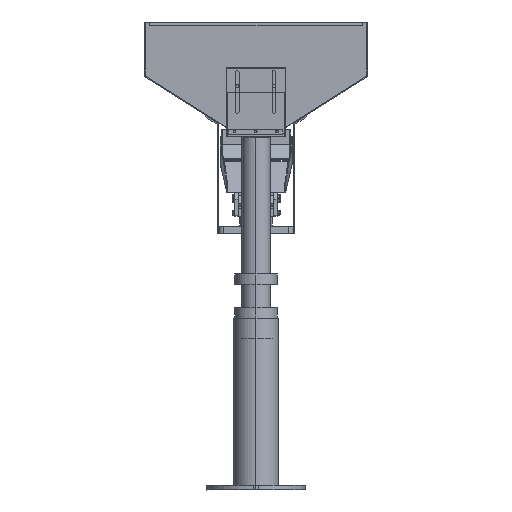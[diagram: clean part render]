
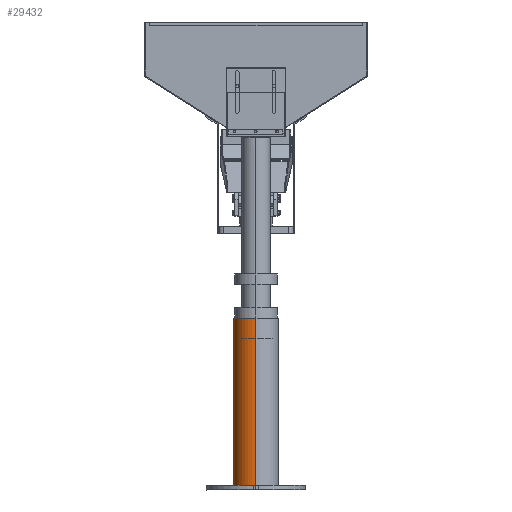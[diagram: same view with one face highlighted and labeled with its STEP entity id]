
A CAD part, left-side view. The second image highlights one B-rep face of the part: STEP entity #29432.
In plain terms, the highlighted cylindrical face has radius 44.75 mm (diameter 89.5 mm), a partial arc.
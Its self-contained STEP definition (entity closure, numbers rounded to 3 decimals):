
#1648 = CIRCLE ( 'NONE', #33261, 44.75 ) ;
#2230 = ORIENTED_EDGE ( 'NONE', *, *, #23548, .T. ) ;
#3118 = AXIS2_PLACEMENT_3D ( 'NONE', #18456, #43193, #40151 ) ;
#3261 = CARTESIAN_POINT ( 'NONE',  ( -1256.942, -265.8, 1498.651 ) ) ;
#3896 = VECTOR ( 'NONE', #23567, 1000. ) ;
#4722 = FACE_OUTER_BOUND ( 'NONE', #28064, .T. ) ;
#4729 = LINE ( 'NONE', #37504, #23122 ) ;
#5061 = ORIENTED_EDGE ( 'NONE', *, *, #6390, .T. ) ;
#5077 = EDGE_CURVE ( 'NONE', #26413, #5469, #17442, .T. ) ;
#5427 = CARTESIAN_POINT ( 'NONE',  ( -1301.692, -265.8, 1468.651 ) ) ;
#5469 = VERTEX_POINT ( 'NONE', #3261 ) ;
#6390 = EDGE_CURVE ( 'NONE', #5469, #31500, #41476, .T. ) ;
#8337 = CARTESIAN_POINT ( 'NONE',  ( -1346.442, -265.806, 1161.874 ) ) ;
#9174 = CARTESIAN_POINT ( 'NONE',  ( -1256.942, -265.8, 1468.651 ) ) ;
#9761 = ORIENTED_EDGE ( 'NONE', *, *, #5077, .T. ) ;
#15555 = EDGE_CURVE ( 'NONE', #26413, #45107, #4729, .T. ) ;
#15578 = DIRECTION ( 'NONE',  ( -1., 0., 0. ) ) ;
#17442 = CIRCLE ( 'NONE', #3118, 44.75 ) ;
#18456 = CARTESIAN_POINT ( 'NONE',  ( -1301.692, -265.8, 1498.651 ) ) ;
#19073 = CARTESIAN_POINT ( 'NONE',  ( -1301.692, -265.806, 1161.874 ) ) ;
#22855 = DIRECTION ( 'NONE',  ( -1., 0., 0. ) ) ;
#23122 = VECTOR ( 'NONE', #44547, 1000. ) ;
#23548 = EDGE_CURVE ( 'NONE', #31500, #45107, #1648, .T. ) ;
#23567 = DIRECTION ( 'NONE',  ( 0., 0., -1. ) ) ;
#26413 = VERTEX_POINT ( 'NONE', #29642 ) ;
#28064 = EDGE_LOOP ( 'NONE', ( #9761, #5061, #2230, #42573 ) ) ;
#29432 = ADVANCED_FACE ( 'NONE', ( #4722 ), #33500, .T. ) ;
#29642 = CARTESIAN_POINT ( 'NONE',  ( -1346.442, -265.8, 1498.651 ) ) ;
#31500 = VERTEX_POINT ( 'NONE', #39691 ) ;
#33261 = AXIS2_PLACEMENT_3D ( 'NONE', #19073, #44029, #22855 ) ;
#33500 = CYLINDRICAL_SURFACE ( 'NONE', #34998, 44.75 ) ;
#33735 = DIRECTION ( 'NONE',  ( 0., 0., -1. ) ) ;
#34998 = AXIS2_PLACEMENT_3D ( 'NONE', #5427, #33735, #15578 ) ;
#37504 = CARTESIAN_POINT ( 'NONE',  ( -1346.442, -265.8, 1468.651 ) ) ;
#39691 = CARTESIAN_POINT ( 'NONE',  ( -1256.942, -265.806, 1161.874 ) ) ;
#40151 = DIRECTION ( 'NONE',  ( -1., 0., 0. ) ) ;
#41476 = LINE ( 'NONE', #9174, #3896 ) ;
#42573 = ORIENTED_EDGE ( 'NONE', *, *, #15555, .F. ) ;
#43193 = DIRECTION ( 'NONE',  ( 0., 0., -1. ) ) ;
#44029 = DIRECTION ( 'NONE',  ( 0., 0., 1. ) ) ;
#44547 = DIRECTION ( 'NONE',  ( 0., 0., -1. ) ) ;
#45107 = VERTEX_POINT ( 'NONE', #8337 ) ;
